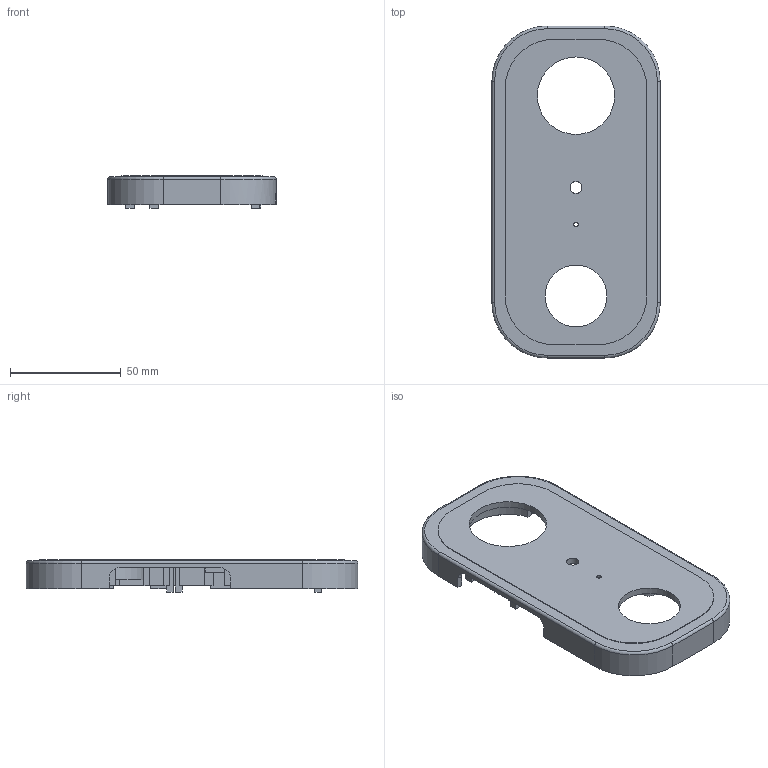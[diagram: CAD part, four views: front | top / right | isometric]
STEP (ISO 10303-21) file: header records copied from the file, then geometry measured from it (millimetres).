
FILE_DESCRIPTION(/* description */ (''),/* implementation_level */ '2;1');
FILE_NAME(/* name */ '01_Front_Shell.step',/* time_stamp */ '2026-09-16T19:15:03-07:00',/* author */ (''),/* organization */ (''),/* preprocessor_version */ 'ST-DEVELOPER v20.1',/* originating_system */ 'Autodesk Translation Framework v15.8.0.0',/* authorisation */ '');
FILE_SCHEMA (('AUTOMOTIVE_DESIGN { 1 0 10303 214 3 1 1 }'));
Length unit declared in the file: centimetre
Products named in the file (1): 2026-09-16-19-15-03-228
Bounding box: 76 x 150 x 14.6 mm (x, y, z)
Volume: 41869.2 mm3; surface area: 32252.4 mm2
Topology: 1 solids, 1 shells, 237 faces, 625 edges, 414 vertices
Faces by surface type: plane 171, cylinder 62, torus 4
Full cylindrical faces by diameter (mm): 2 x1, 3.4 x6, 4 x6, 5.4 x1, 9.6 x2, 28 x1, 35 x1
Entity records: 7371 total; most frequent: CARTESIAN_POINT 1295, ORIENTED_EDGE 1250, DIRECTION 1237, EDGE_CURVE 625, LINE 485, VECTOR 485, VERTEX_POINT 414, AXIS2_PLACEMENT_3D 376
